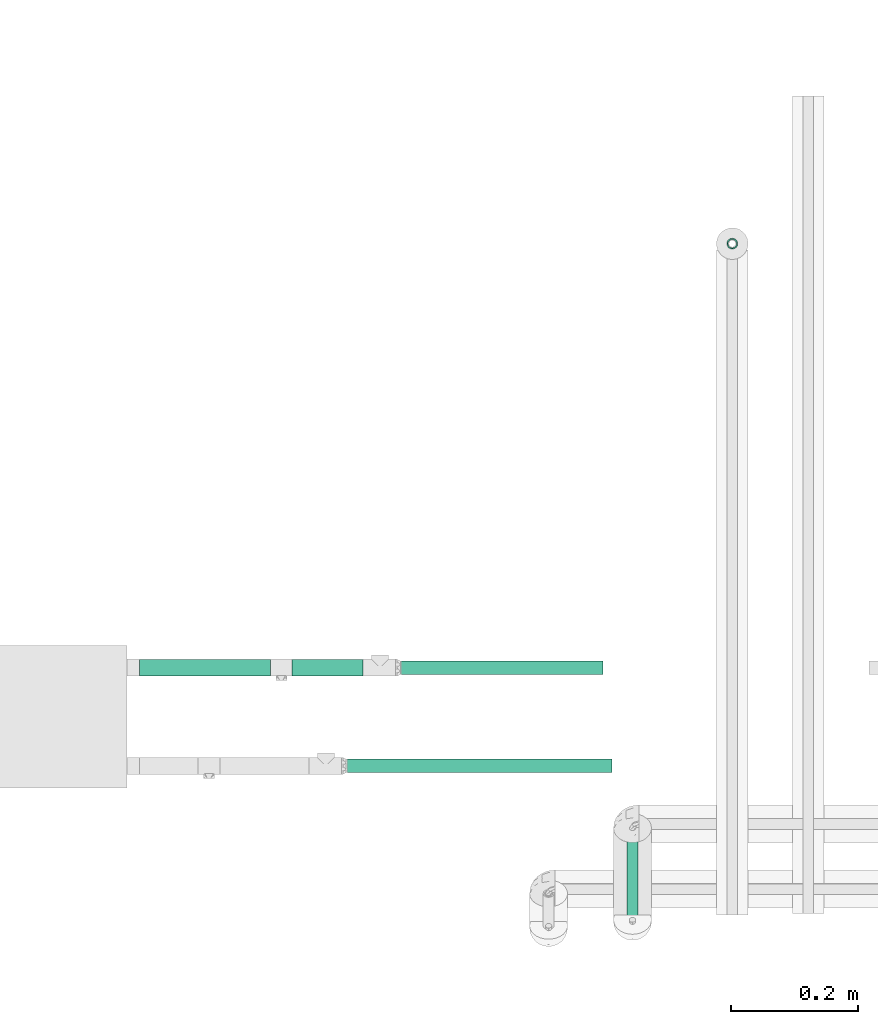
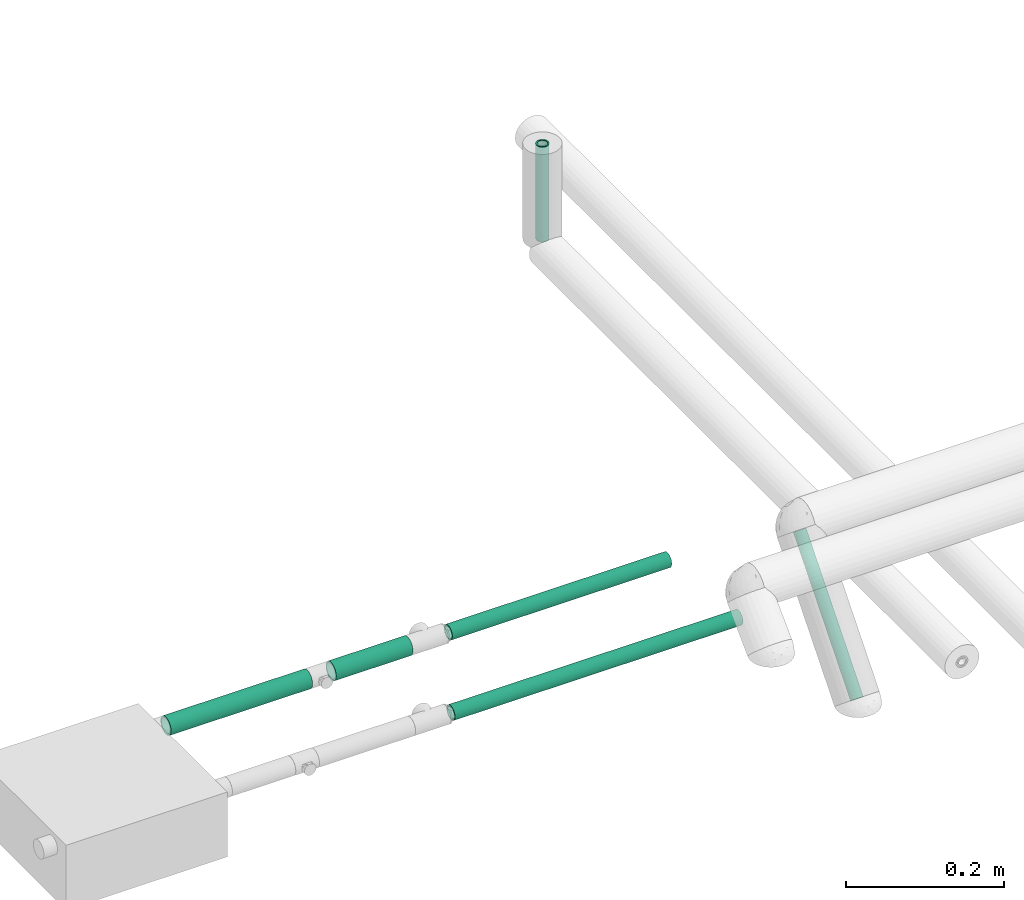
# One storey, part 53 of 156: 6 flow segments.
"""IFC2X3 building model written with IfcOpenShell, lengths in millimetres."""

from ifc_helpers import new_model, entity, si_unit, converted_unit, derived_unit, direction, frame, origin_with_axes, origin_2d_with_axis, place, context, subcontext, project, spatial, hollow_circle, extrude, source, transform, mapped, type_object, element, save


model = new_model("IFC2X3")

# Units and contexts
model_context = context("Model", 3, precision=0.01, world=frame((0.0, 4.29681676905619e-09, 0.0)), true_north=direction((4.01073788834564e-13, 1.0)))
plan_context = context("Plan", 3, precision=0.01, world=frame((0.0, 4.29681676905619e-09, 0.0)), true_north=direction((4.01073788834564e-13, 1.0)))
body_context = subcontext(model_context, "Body", "Model", "MODEL_VIEW")
ifc_project = project(units=[converted_unit("PLANEANGLEUNIT", "DEGREE", entity("IfcPositiveLengthMeasure", 0.0174532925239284), si_unit("PLANEANGLEUNIT", "RADIAN"), dimensions=[0, 0, 0, 0, 0, 0, 0]), si_unit("AREAUNIT", "SQUARE_METRE"), si_unit("LENGTHUNIT", "METRE", prefix="MILLI"), si_unit("MASSUNIT", "GRAM", prefix="KILO"), si_unit("POWERUNIT", "WATT"), si_unit("PRESSUREUNIT", "PASCAL", prefix="KILO"), si_unit("FORCEUNIT", "NEWTON", prefix="KILO"), si_unit("ELECTRICVOLTAGEUNIT", "VOLT"), si_unit("ELECTRICCURRENTUNIT", "AMPERE"), si_unit("THERMODYNAMICTEMPERATUREUNIT", "DEGREE_CELSIUS"), si_unit("TIMEUNIT", "SECOND"), si_unit("VOLUMEUNIT", "CUBIC_METRE"), derived_unit("LINEARVELOCITYUNIT", [(si_unit("LENGTHUNIT", "METRE"), 1), (si_unit("TIMEUNIT", "SECOND"), -1)]), derived_unit("VOLUMETRICFLOWRATEUNIT", [(si_unit("VOLUMEUNIT", "CUBIC_METRE"), 1), (si_unit("TIMEUNIT", "SECOND"), -1)]), derived_unit("THERMALTRANSMITTANCEUNIT", [(si_unit("POWERUNIT", "WATT"), 1), (si_unit("THERMODYNAMICTEMPERATUREUNIT", "KELVIN"), -1), (si_unit("AREAUNIT", "SQUARE_METRE"), -1)]), derived_unit("SOUNDPRESSUREUNIT", [(si_unit("PRESSUREUNIT", "PASCAL"), 1)])], contexts=[model_context, plan_context])

# Site, building, storey
site_placement = place(None, frame((0.0, -4.29681676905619e-09, 0.0), z_axis=(0.0, 0.0, 1.0), x_axis=(1.0, 0.0, 0.0)))
site = spatial("IfcSite", under=ifc_project, at=site_placement, CompositionType="ELEMENT")
building_placement = place(site_placement, frame((0.0, 4.29681676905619e-09, 0.0), z_axis=(0.0, 0.0, 1.0), x_axis=(1.0, 0.0, 0.0)))
building = spatial("IfcBuilding", under=site, at=building_placement, Name="mc-building", CompositionType="ELEMENT")
storey_placement = place(building_placement, frame((0.0, 0.0, 205200.0), z_axis=(0.0, 0.0, 1.0), x_axis=(1.0, 0.0, 0.0)))
storey = spatial("IfcBuildingStorey", under=building, at=storey_placement, Name="Nivå D + 1,2 m", CompositionType="ELEMENT", Elevation=205200.0)

# Flow segments
pipe_segment_type = type_object("IfcPipeSegmentType", Name="Stålrør normaltykke", PredefinedType="RIGIDSEGMENT")
shared_shape_1 = source(origin_with_axes(), body_context, "Body", "SweptSolid", [
    extrude(hollow_circle(Radius=10.7, WallThickness=2.0, at=origin_2d_with_axis()), frame((0.0, 0.0, 0.0), z_axis=(1.0, 0.0, 0.0), x_axis=(0.0, 1.0, 0.0)), (0.0, 0.0, 1.0), 420.0),
])
flow_segment_1_placement = place(storey_placement, frame((323345.45854, 459123.07852, 4038.0), z_axis=(0.0, 0.0, 1.0), x_axis=(-1.0, 0.0, 0.0)))
element("IfcFlowSegment", 1, at=flow_segment_1_placement, inside=storey, type_object=pipe_segment_type, Name="Stålrør normaltykke", context=body_context, shape_type="MappedRepresentation", body=[
    mapped(shared_shape_1, transform((0.0, 0.0, 0.0), scale=1.0)),
])
shared_shape_2 = source(origin_with_axes(), body_context, "Body", "SweptSolid", [
    extrude(hollow_circle(Radius=10.7, WallThickness=2.0, at=origin_2d_with_axis()), frame((0.0, 0.0, 0.0), z_axis=(1.0, 0.0, 0.0), x_axis=(0.0, 1.0, 0.0)), (0.0, 0.0, 1.0), 320.0),
])
flow_segment_2_placement = place(storey_placement, frame((323331.10559, 459278.07852, 4038.0), z_axis=(0.0, 0.0, 1.0), x_axis=(-1.0, 0.0, 0.0)))
element("IfcFlowSegment", 2, at=flow_segment_2_placement, inside=storey, type_object=pipe_segment_type, Name="Stålrør normaltykke", context=body_context, shape_type="MappedRepresentation", body=[
    mapped(shared_shape_2, transform((0.0, 0.0, 0.0), scale=1.0)),
])
shared_shape_3 = source(origin_with_axes(), body_context, "Body", "SweptSolid", [
    extrude(hollow_circle(Radius=13.3, WallThickness=2.0, at=origin_2d_with_axis()), frame((0.0, 0.0, 0.0), z_axis=(1.0, 0.0, 0.0), x_axis=(0.0, 1.0, 0.0)), (0.0, 0.0, 1.0), 111.9),
])
flow_segment_3_placement = place(storey_placement, frame((322840.2376, 459278.07852, 4038.0), z_axis=(0.0, 0.0, 1.0), x_axis=(1.0, 0.0, 0.0)))
element("IfcFlowSegment", 3, at=flow_segment_3_placement, inside=storey, type_object=pipe_segment_type, Name="Stålrør normaltykke", context=body_context, shape_type="MappedRepresentation", body=[
    mapped(shared_shape_3, transform((0.0, 0.0, 0.0), scale=1.0)),
])
shared_shape_4 = source(origin_with_axes(), body_context, "Body", "SweptSolid", [
    extrude(hollow_circle(Radius=13.3, WallThickness=2.0, at=origin_2d_with_axis()), frame((0.0, 0.0, 0.0), z_axis=(1.0, 0.0, 0.0), x_axis=(0.0, 1.0, 0.0)), (0.0, 0.0, 1.0), 206.5),
])
flow_segment_4_placement = place(storey_placement, frame((322805.8376, 459278.07852, 4038.0), z_axis=(0.0, 0.0, 1.0), x_axis=(-1.0, 0.0, 0.0)))
element("IfcFlowSegment", 4, at=flow_segment_4_placement, inside=storey, type_object=pipe_segment_type, Name="Stålrør normaltykke", context=body_context, shape_type="MappedRepresentation", body=[
    mapped(shared_shape_4, transform((0.0, 0.0, 0.0), scale=1.0)),
])
shared_shape_5 = source(origin_with_axes(), body_context, "Body", "SweptSolid", [
    extrude(hollow_circle(Radius=8.6, WallThickness=2.0, at=origin_2d_with_axis()), frame((0.0, 0.0, 0.0), z_axis=(1.0, 0.0, 0.0), x_axis=(0.0, 1.0, 0.0)), (0.0, 0.0, 1.0), 146.8),
])
flow_segment_5_placement = place(storey_placement, frame((323535.0, 459947.49509, 4055.79999999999), z_axis=(1.0, 0.0, 0.0), x_axis=(0.0, 0.0, 1.0)))
element("IfcFlowSegment", 5, at=flow_segment_5_placement, inside=storey, type_object=pipe_segment_type, Name="Stålrør normaltykke", context=body_context, shape_type="MappedRepresentation", body=[
    mapped(shared_shape_5, transform((0.0, 0.0, 0.0), scale=1.0)),
])
shared_shape_6 = source(origin_with_axes(), body_context, "Body", "SweptSolid", [
    extrude(hollow_circle(Radius=8.6, WallThickness=2.0, at=origin_2d_with_axis()), frame((0.0, 0.0, 0.0), z_axis=(1.0, 0.0, 0.0), x_axis=(0.0, 1.0, 0.0)), (0.0, 0.0, 1.0), 225.2),
])
flow_segment_6_placement = place(storey_placement, frame((323377.5, 458880.07084, 4048.10879), z_axis=(0.0, -0.766044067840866, 0.642788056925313), x_axis=(0.0, 0.642788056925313, 0.766044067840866)))
element("IfcFlowSegment", 6, at=flow_segment_6_placement, inside=storey, type_object=pipe_segment_type, Name="Stålrør normaltykke", context=body_context, shape_type="MappedRepresentation", body=[
    mapped(shared_shape_6, transform((0.0, 0.0, 0.0), scale=1.0)),
])

save(model, "model.ifc")
